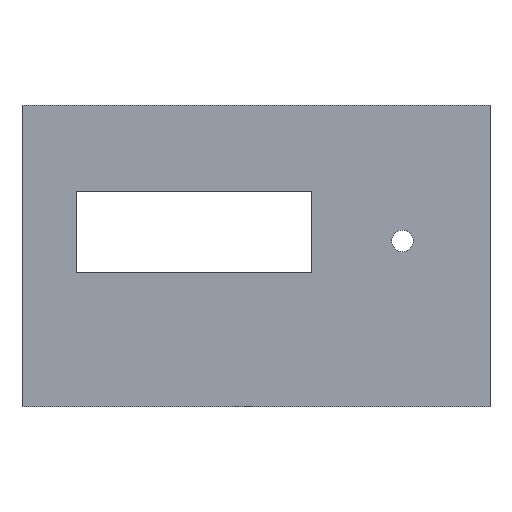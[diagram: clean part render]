
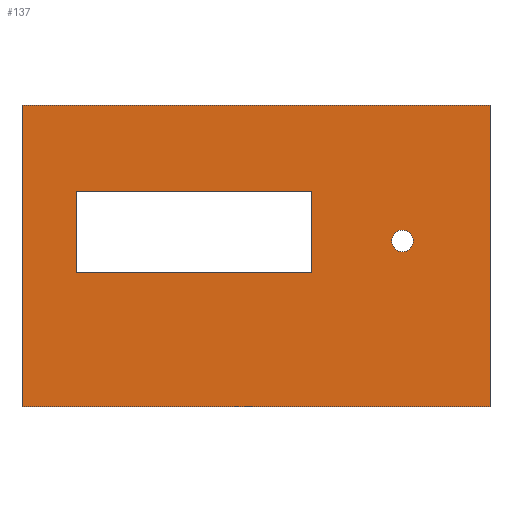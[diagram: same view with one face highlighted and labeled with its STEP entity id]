
A CAD part, front view. The second image highlights one B-rep face of the part: STEP entity #137.
In plain terms, the highlighted planar face has unit normal (0, -1, 0).
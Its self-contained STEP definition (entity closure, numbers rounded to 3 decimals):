
#21 = EDGE_CURVE('',#22,#24,#26,.T.);
#22 = VERTEX_POINT('',#23);
#23 = CARTESIAN_POINT('',(0.,0.,0.));
#24 = VERTEX_POINT('',#25);
#25 = CARTESIAN_POINT('',(0.,0.,100.));
#26 = SURFACE_CURVE('',#27,(#31,#43),.PCURVE_S1.);
#27 = LINE('',#28,#29);
#28 = CARTESIAN_POINT('',(0.,0.,0.));
#29 = VECTOR('',#30,1.);
#30 = DIRECTION('',(0.,0.,1.));
#31 = PCURVE('',#32,#37);
#32 = PLANE('',#33);
#33 = AXIS2_PLACEMENT_3D('',#34,#35,#36);
#34 = CARTESIAN_POINT('',(0.,0.,0.));
#35 = DIRECTION('',(1.,0.,0.));
#36 = DIRECTION('',(0.,0.,1.));
#37 = DEFINITIONAL_REPRESENTATION('',(#38),#42);
#38 = LINE('',#39,#40);
#39 = CARTESIAN_POINT('',(0.,0.));
#40 = VECTOR('',#41,1.);
#41 = DIRECTION('',(1.,0.));
#42 = ( GEOMETRIC_REPRESENTATION_CONTEXT(2) 
PARAMETRIC_REPRESENTATION_CONTEXT() REPRESENTATION_CONTEXT('2D SPACE',''
  ) );
#43 = PCURVE('',#44,#49);
#44 = PLANE('',#45);
#45 = AXIS2_PLACEMENT_3D('',#46,#47,#48);
#46 = CARTESIAN_POINT('',(0.,0.,0.));
#47 = DIRECTION('',(0.,1.,0.));
#48 = DIRECTION('',(0.,0.,1.));
#49 = DEFINITIONAL_REPRESENTATION('',(#50),#54);
#50 = LINE('',#51,#52);
#51 = CARTESIAN_POINT('',(0.,0.));
#52 = VECTOR('',#53,1.);
#53 = DIRECTION('',(1.,0.));
#54 = ( GEOMETRIC_REPRESENTATION_CONTEXT(2) 
PARAMETRIC_REPRESENTATION_CONTEXT() REPRESENTATION_CONTEXT('2D SPACE',''
  ) );
#72 = PLANE('',#73);
#73 = AXIS2_PLACEMENT_3D('',#74,#75,#76);
#74 = CARTESIAN_POINT('',(0.,0.,0.));
#75 = DIRECTION('',(0.,0.,1.));
#76 = DIRECTION('',(1.,0.,0.));
#126 = PLANE('',#127);
#127 = AXIS2_PLACEMENT_3D('',#128,#129,#130);
#128 = CARTESIAN_POINT('',(0.,0.,100.));
#129 = DIRECTION('',(0.,0.,1.));
#130 = DIRECTION('',(1.,0.,0.));
#137 = ADVANCED_FACE('',(#138,#213,#319),#44,.F.);
#138 = FACE_BOUND('',#139,.F.);
#139 = EDGE_LOOP('',(#140,#163,#164,#187));
#140 = ORIENTED_EDGE('',*,*,#141,.F.);
#141 = EDGE_CURVE('',#22,#142,#144,.T.);
#142 = VERTEX_POINT('',#143);
#143 = CARTESIAN_POINT('',(155.,0.,0.));
#144 = SURFACE_CURVE('',#145,(#149,#156),.PCURVE_S1.);
#145 = LINE('',#146,#147);
#146 = CARTESIAN_POINT('',(0.,0.,0.));
#147 = VECTOR('',#148,1.);
#148 = DIRECTION('',(1.,0.,0.));
#149 = PCURVE('',#44,#150);
#150 = DEFINITIONAL_REPRESENTATION('',(#151),#155);
#151 = LINE('',#152,#153);
#152 = CARTESIAN_POINT('',(0.,0.));
#153 = VECTOR('',#154,1.);
#154 = DIRECTION('',(0.,1.));
#155 = ( GEOMETRIC_REPRESENTATION_CONTEXT(2) 
PARAMETRIC_REPRESENTATION_CONTEXT() REPRESENTATION_CONTEXT('2D SPACE',''
  ) );
#156 = PCURVE('',#72,#157);
#157 = DEFINITIONAL_REPRESENTATION('',(#158),#162);
#158 = LINE('',#159,#160);
#159 = CARTESIAN_POINT('',(0.,0.));
#160 = VECTOR('',#161,1.);
#161 = DIRECTION('',(1.,0.));
#162 = ( GEOMETRIC_REPRESENTATION_CONTEXT(2) 
PARAMETRIC_REPRESENTATION_CONTEXT() REPRESENTATION_CONTEXT('2D SPACE',''
  ) );
#163 = ORIENTED_EDGE('',*,*,#21,.T.);
#164 = ORIENTED_EDGE('',*,*,#165,.T.);
#165 = EDGE_CURVE('',#24,#166,#168,.T.);
#166 = VERTEX_POINT('',#167);
#167 = CARTESIAN_POINT('',(155.,0.,100.));
#168 = SURFACE_CURVE('',#169,(#173,#180),.PCURVE_S1.);
#169 = LINE('',#170,#171);
#170 = CARTESIAN_POINT('',(0.,0.,100.));
#171 = VECTOR('',#172,1.);
#172 = DIRECTION('',(1.,0.,0.));
#173 = PCURVE('',#44,#174);
#174 = DEFINITIONAL_REPRESENTATION('',(#175),#179);
#175 = LINE('',#176,#177);
#176 = CARTESIAN_POINT('',(100.,0.));
#177 = VECTOR('',#178,1.);
#178 = DIRECTION('',(0.,1.));
#179 = ( GEOMETRIC_REPRESENTATION_CONTEXT(2) 
PARAMETRIC_REPRESENTATION_CONTEXT() REPRESENTATION_CONTEXT('2D SPACE',''
  ) );
#180 = PCURVE('',#126,#181);
#181 = DEFINITIONAL_REPRESENTATION('',(#182),#186);
#182 = LINE('',#183,#184);
#183 = CARTESIAN_POINT('',(0.,0.));
#184 = VECTOR('',#185,1.);
#185 = DIRECTION('',(1.,0.));
#186 = ( GEOMETRIC_REPRESENTATION_CONTEXT(2) 
PARAMETRIC_REPRESENTATION_CONTEXT() REPRESENTATION_CONTEXT('2D SPACE',''
  ) );
#187 = ORIENTED_EDGE('',*,*,#188,.F.);
#188 = EDGE_CURVE('',#142,#166,#189,.T.);
#189 = SURFACE_CURVE('',#190,(#194,#201),.PCURVE_S1.);
#190 = LINE('',#191,#192);
#191 = CARTESIAN_POINT('',(155.,0.,0.));
#192 = VECTOR('',#193,1.);
#193 = DIRECTION('',(0.,0.,1.));
#194 = PCURVE('',#44,#195);
#195 = DEFINITIONAL_REPRESENTATION('',(#196),#200);
#196 = LINE('',#197,#198);
#197 = CARTESIAN_POINT('',(0.,155.));
#198 = VECTOR('',#199,1.);
#199 = DIRECTION('',(1.,0.));
#200 = ( GEOMETRIC_REPRESENTATION_CONTEXT(2) 
PARAMETRIC_REPRESENTATION_CONTEXT() REPRESENTATION_CONTEXT('2D SPACE',''
  ) );
#201 = PCURVE('',#202,#207);
#202 = PLANE('',#203);
#203 = AXIS2_PLACEMENT_3D('',#204,#205,#206);
#204 = CARTESIAN_POINT('',(155.,0.,0.));
#205 = DIRECTION('',(1.,0.,0.));
#206 = DIRECTION('',(0.,0.,1.));
#207 = DEFINITIONAL_REPRESENTATION('',(#208),#212);
#208 = LINE('',#209,#210);
#209 = CARTESIAN_POINT('',(0.,0.));
#210 = VECTOR('',#211,1.);
#211 = DIRECTION('',(1.,0.));
#212 = ( GEOMETRIC_REPRESENTATION_CONTEXT(2) 
PARAMETRIC_REPRESENTATION_CONTEXT() REPRESENTATION_CONTEXT('2D SPACE',''
  ) );
#213 = FACE_BOUND('',#214,.F.);
#214 = EDGE_LOOP('',(#215,#243,#269,#295));
#215 = ORIENTED_EDGE('',*,*,#216,.F.);
#216 = EDGE_CURVE('',#217,#219,#221,.T.);
#217 = VERTEX_POINT('',#218);
#218 = CARTESIAN_POINT('',(18.,0.,71.5));
#219 = VERTEX_POINT('',#220);
#220 = CARTESIAN_POINT('',(96.,0.,71.5));
#221 = SURFACE_CURVE('',#222,(#226,#232),.PCURVE_S1.);
#222 = LINE('',#223,#224);
#223 = CARTESIAN_POINT('',(9.,0.,71.5));
#224 = VECTOR('',#225,1.);
#225 = DIRECTION('',(1.,0.,0.));
#226 = PCURVE('',#44,#227);
#227 = DEFINITIONAL_REPRESENTATION('',(#228),#231);
#228 = B_SPLINE_CURVE_WITH_KNOTS('',1,(#229,#230),.UNSPECIFIED.,.F.,.F.,
  (2,2),(9.,87.),.PIECEWISE_BEZIER_KNOTS.);
#229 = CARTESIAN_POINT('',(71.5,18.));
#230 = CARTESIAN_POINT('',(71.5,96.));
#231 = ( GEOMETRIC_REPRESENTATION_CONTEXT(2) 
PARAMETRIC_REPRESENTATION_CONTEXT() REPRESENTATION_CONTEXT('2D SPACE',''
  ) );
#232 = PCURVE('',#233,#238);
#233 = PLANE('',#234);
#234 = AXIS2_PLACEMENT_3D('',#235,#236,#237);
#235 = CARTESIAN_POINT('',(18.,-0.1,71.5));
#236 = DIRECTION('',(0.,0.,1.));
#237 = DIRECTION('',(1.,0.,0.));
#238 = DEFINITIONAL_REPRESENTATION('',(#239),#242);
#239 = B_SPLINE_CURVE_WITH_KNOTS('',1,(#240,#241),.UNSPECIFIED.,.F.,.F.,
  (2,2),(9.,87.),.PIECEWISE_BEZIER_KNOTS.);
#240 = CARTESIAN_POINT('',(0.,0.1));
#241 = CARTESIAN_POINT('',(78.,0.1));
#242 = ( GEOMETRIC_REPRESENTATION_CONTEXT(2) 
PARAMETRIC_REPRESENTATION_CONTEXT() REPRESENTATION_CONTEXT('2D SPACE',''
  ) );
#243 = ORIENTED_EDGE('',*,*,#244,.T.);
#244 = EDGE_CURVE('',#217,#245,#247,.T.);
#245 = VERTEX_POINT('',#246);
#246 = CARTESIAN_POINT('',(18.,0.,44.5));
#247 = SURFACE_CURVE('',#248,(#252,#258),.PCURVE_S1.);
#248 = LINE('',#249,#250);
#249 = CARTESIAN_POINT('',(18.,0.,22.25));
#250 = VECTOR('',#251,1.);
#251 = DIRECTION('',(0.,0.,-1.));
#252 = PCURVE('',#44,#253);
#253 = DEFINITIONAL_REPRESENTATION('',(#254),#257);
#254 = B_SPLINE_CURVE_WITH_KNOTS('',1,(#255,#256),.UNSPECIFIED.,.F.,.F.,
  (2,2),(-49.25,-22.25),.PIECEWISE_BEZIER_KNOTS.);
#255 = CARTESIAN_POINT('',(71.5,18.));
#256 = CARTESIAN_POINT('',(44.5,18.));
#257 = ( GEOMETRIC_REPRESENTATION_CONTEXT(2) 
PARAMETRIC_REPRESENTATION_CONTEXT() REPRESENTATION_CONTEXT('2D SPACE',''
  ) );
#258 = PCURVE('',#259,#264);
#259 = PLANE('',#260);
#260 = AXIS2_PLACEMENT_3D('',#261,#262,#263);
#261 = CARTESIAN_POINT('',(18.,-0.1,44.5));
#262 = DIRECTION('',(1.,0.,0.));
#263 = DIRECTION('',(0.,0.,1.));
#264 = DEFINITIONAL_REPRESENTATION('',(#265),#268);
#265 = B_SPLINE_CURVE_WITH_KNOTS('',1,(#266,#267),.UNSPECIFIED.,.F.,.F.,
  (2,2),(-49.25,-22.25),.PIECEWISE_BEZIER_KNOTS.);
#266 = CARTESIAN_POINT('',(27.,-0.1));
#267 = CARTESIAN_POINT('',(0.,-0.1));
#268 = ( GEOMETRIC_REPRESENTATION_CONTEXT(2) 
PARAMETRIC_REPRESENTATION_CONTEXT() REPRESENTATION_CONTEXT('2D SPACE',''
  ) );
#269 = ORIENTED_EDGE('',*,*,#270,.T.);
#270 = EDGE_CURVE('',#245,#271,#273,.T.);
#271 = VERTEX_POINT('',#272);
#272 = CARTESIAN_POINT('',(96.,0.,44.5));
#273 = SURFACE_CURVE('',#274,(#278,#284),.PCURVE_S1.);
#274 = LINE('',#275,#276);
#275 = CARTESIAN_POINT('',(9.,0.,44.5));
#276 = VECTOR('',#277,1.);
#277 = DIRECTION('',(1.,0.,0.));
#278 = PCURVE('',#44,#279);
#279 = DEFINITIONAL_REPRESENTATION('',(#280),#283);
#280 = B_SPLINE_CURVE_WITH_KNOTS('',1,(#281,#282),.UNSPECIFIED.,.F.,.F.,
  (2,2),(9.,87.),.PIECEWISE_BEZIER_KNOTS.);
#281 = CARTESIAN_POINT('',(44.5,18.));
#282 = CARTESIAN_POINT('',(44.5,96.));
#283 = ( GEOMETRIC_REPRESENTATION_CONTEXT(2) 
PARAMETRIC_REPRESENTATION_CONTEXT() REPRESENTATION_CONTEXT('2D SPACE',''
  ) );
#284 = PCURVE('',#285,#290);
#285 = PLANE('',#286);
#286 = AXIS2_PLACEMENT_3D('',#287,#288,#289);
#287 = CARTESIAN_POINT('',(18.,-0.1,44.5));
#288 = DIRECTION('',(0.,0.,1.));
#289 = DIRECTION('',(1.,0.,0.));
#290 = DEFINITIONAL_REPRESENTATION('',(#291),#294);
#291 = B_SPLINE_CURVE_WITH_KNOTS('',1,(#292,#293),.UNSPECIFIED.,.F.,.F.,
  (2,2),(9.,87.),.PIECEWISE_BEZIER_KNOTS.);
#292 = CARTESIAN_POINT('',(0.,0.1));
#293 = CARTESIAN_POINT('',(78.,0.1));
#294 = ( GEOMETRIC_REPRESENTATION_CONTEXT(2) 
PARAMETRIC_REPRESENTATION_CONTEXT() REPRESENTATION_CONTEXT('2D SPACE',''
  ) );
#295 = ORIENTED_EDGE('',*,*,#296,.F.);
#296 = EDGE_CURVE('',#219,#271,#297,.T.);
#297 = SURFACE_CURVE('',#298,(#302,#308),.PCURVE_S1.);
#298 = LINE('',#299,#300);
#299 = CARTESIAN_POINT('',(96.,0.,22.25));
#300 = VECTOR('',#301,1.);
#301 = DIRECTION('',(0.,0.,-1.));
#302 = PCURVE('',#44,#303);
#303 = DEFINITIONAL_REPRESENTATION('',(#304),#307);
#304 = B_SPLINE_CURVE_WITH_KNOTS('',1,(#305,#306),.UNSPECIFIED.,.F.,.F.,
  (2,2),(-49.25,-22.25),.PIECEWISE_BEZIER_KNOTS.);
#305 = CARTESIAN_POINT('',(71.5,96.));
#306 = CARTESIAN_POINT('',(44.5,96.));
#307 = ( GEOMETRIC_REPRESENTATION_CONTEXT(2) 
PARAMETRIC_REPRESENTATION_CONTEXT() REPRESENTATION_CONTEXT('2D SPACE',''
  ) );
#308 = PCURVE('',#309,#314);
#309 = PLANE('',#310);
#310 = AXIS2_PLACEMENT_3D('',#311,#312,#313);
#311 = CARTESIAN_POINT('',(96.,-0.1,44.5));
#312 = DIRECTION('',(1.,0.,0.));
#313 = DIRECTION('',(0.,0.,1.));
#314 = DEFINITIONAL_REPRESENTATION('',(#315),#318);
#315 = B_SPLINE_CURVE_WITH_KNOTS('',1,(#316,#317),.UNSPECIFIED.,.F.,.F.,
  (2,2),(-49.25,-22.25),.PIECEWISE_BEZIER_KNOTS.);
#316 = CARTESIAN_POINT('',(27.,-0.1));
#317 = CARTESIAN_POINT('',(0.,-0.1));
#318 = ( GEOMETRIC_REPRESENTATION_CONTEXT(2) 
PARAMETRIC_REPRESENTATION_CONTEXT() REPRESENTATION_CONTEXT('2D SPACE',''
  ) );
#319 = FACE_BOUND('',#320,.F.);
#320 = EDGE_LOOP('',(#321));
#321 = ORIENTED_EDGE('',*,*,#322,.F.);
#322 = EDGE_CURVE('',#323,#323,#325,.T.);
#323 = VERTEX_POINT('',#324);
#324 = CARTESIAN_POINT('',(126.,0.,58.6));
#325 = SURFACE_CURVE('',#326,(#331,#338),.PCURVE_S1.);
#326 = CIRCLE('',#327,3.6);
#327 = AXIS2_PLACEMENT_3D('',#328,#329,#330);
#328 = CARTESIAN_POINT('',(126.,0.,55.));
#329 = DIRECTION('',(0.,1.,0.));
#330 = DIRECTION('',(0.,-0.,1.));
#331 = PCURVE('',#44,#332);
#332 = DEFINITIONAL_REPRESENTATION('',(#333),#337);
#333 = CIRCLE('',#334,3.6);
#334 = AXIS2_PLACEMENT_2D('',#335,#336);
#335 = CARTESIAN_POINT('',(55.,126.));
#336 = DIRECTION('',(1.,0.));
#337 = ( GEOMETRIC_REPRESENTATION_CONTEXT(2) 
PARAMETRIC_REPRESENTATION_CONTEXT() REPRESENTATION_CONTEXT('2D SPACE',''
  ) );
#338 = PCURVE('',#339,#344);
#339 = CYLINDRICAL_SURFACE('',#340,3.6);
#340 = AXIS2_PLACEMENT_3D('',#341,#342,#343);
#341 = CARTESIAN_POINT('',(126.,-0.1,55.));
#342 = DIRECTION('',(0.,1.,0.));
#343 = DIRECTION('',(0.,-0.,1.));
#344 = DEFINITIONAL_REPRESENTATION('',(#345),#349);
#345 = LINE('',#346,#347);
#346 = CARTESIAN_POINT('',(0.,0.1));
#347 = VECTOR('',#348,1.);
#348 = DIRECTION('',(1.,0.));
#349 = ( GEOMETRIC_REPRESENTATION_CONTEXT(2) 
PARAMETRIC_REPRESENTATION_CONTEXT() REPRESENTATION_CONTEXT('2D SPACE',''
  ) );
